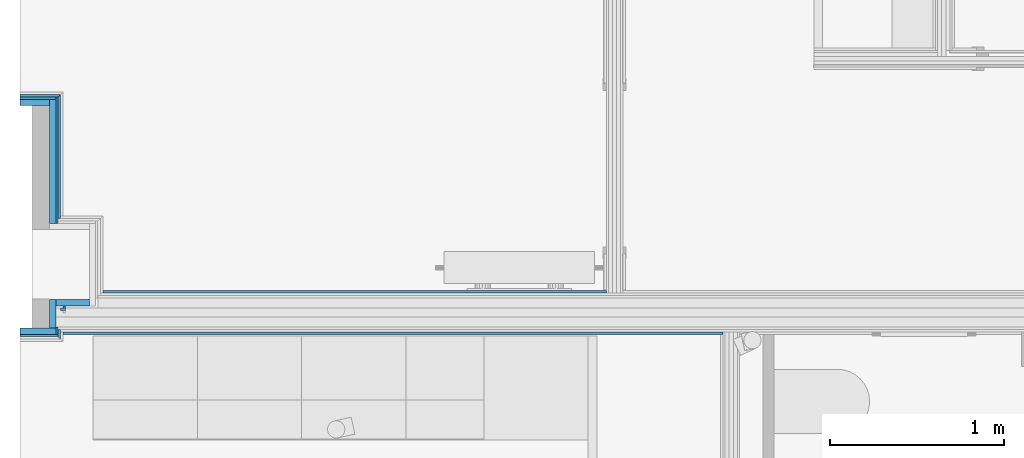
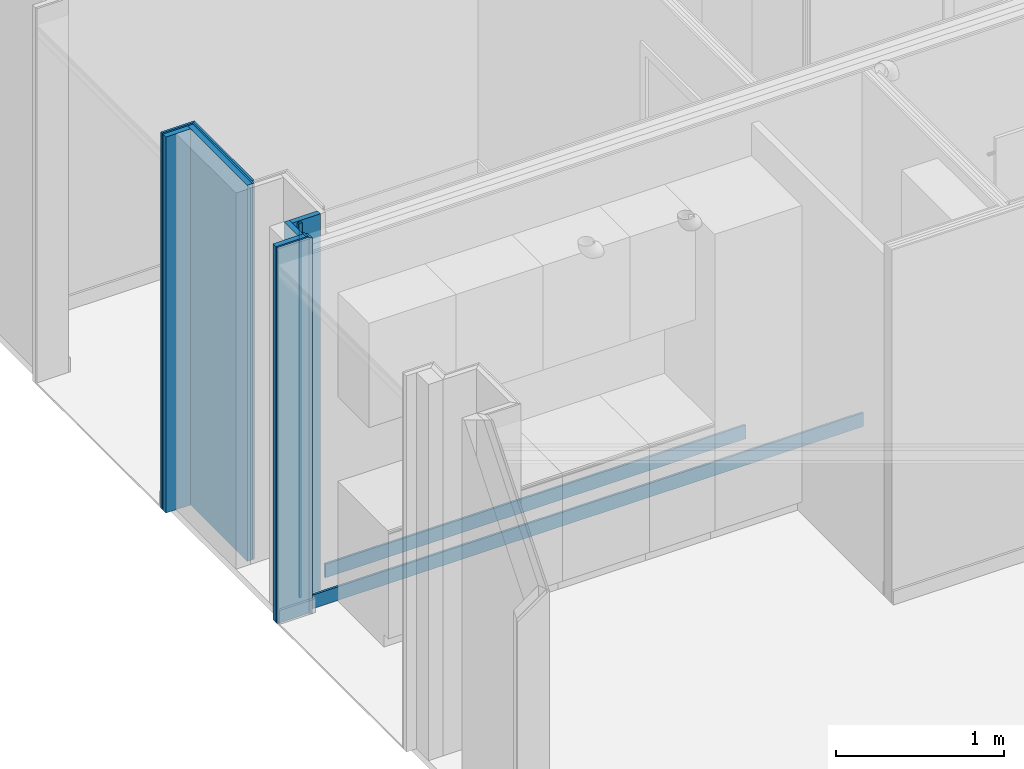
# One storey, part 12 of 85: 16 building element parts, 6 elements without a shape of their own.
"""IFC2X3 building model written with IfcOpenShell, lengths in metres."""

from ifc_helpers import new_model, entity, si_unit, converted_unit, derived_unit, money_unit, direction, frame, frame_2d, origin_with_axes, place, context, subcontext, project, spatial, polyline, rectangle, outline, extrude, material, type_object, element, aggregate, save


model = new_model("IFC2X3")

# Units and contexts
model_context = context("Model", 3, precision=1e-05, world=origin_with_axes(), true_north=direction((0.0, 1.0)))
body_context = subcontext(model_context, "Body", "Model", "MODEL_VIEW", scale=1.0)
ifc_project = project(units=[si_unit("LENGTHUNIT", "METRE"), si_unit("AREAUNIT", "SQUARE_METRE"), si_unit("VOLUMEUNIT", "CUBIC_METRE"), si_unit("ABSORBEDDOSEUNIT", "GRAY"), si_unit("AMOUNTOFSUBSTANCEUNIT", "MOLE"), si_unit("DOSEEQUIVALENTUNIT", "SIEVERT"), si_unit("ELECTRICCAPACITANCEUNIT", "FARAD"), si_unit("ELECTRICCHARGEUNIT", "COULOMB"), si_unit("ELECTRICCONDUCTANCEUNIT", "SIEMENS"), si_unit("ELECTRICCURRENTUNIT", "AMPERE"), si_unit("ELECTRICRESISTANCEUNIT", "OHM"), si_unit("ELECTRICVOLTAGEUNIT", "VOLT"), si_unit("ENERGYUNIT", "JOULE"), si_unit("FORCEUNIT", "NEWTON"), si_unit("FREQUENCYUNIT", "HERTZ"), si_unit("ILLUMINANCEUNIT", "LUX"), si_unit("INDUCTANCEUNIT", "HENRY"), si_unit("LUMINOUSFLUXUNIT", "LUMEN"), si_unit("LUMINOUSINTENSITYUNIT", "CANDELA"), si_unit("MAGNETICFLUXDENSITYUNIT", "TESLA"), si_unit("MAGNETICFLUXUNIT", "WEBER"), si_unit("MASSUNIT", "GRAM"), converted_unit("PLANEANGLEUNIT", "degree", entity("IfcReal", 0.0174532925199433), si_unit("PLANEANGLEUNIT", "RADIAN"), dimensions=[0, 0, 0, 0, 0, 0, 0]), si_unit("POWERUNIT", "WATT"), si_unit("PRESSUREUNIT", "PASCAL"), si_unit("RADIOACTIVITYUNIT", "BECQUEREL"), si_unit("SOLIDANGLEUNIT", "STERADIAN"), si_unit("THERMODYNAMICTEMPERATUREUNIT", "KELVIN"), si_unit("TIMEUNIT", "SECOND"), derived_unit("ACCELERATIONUNIT", [(si_unit("LENGTHUNIT", "METRE"), 1), (si_unit("TIMEUNIT", "SECOND"), -2)]), derived_unit("ANGULARVELOCITYUNIT", [(converted_unit("PLANEANGLEUNIT", "degree", entity("IfcReal", 0.0174532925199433), si_unit("PLANEANGLEUNIT", "RADIAN"), dimensions=[0, 0, 0, 0, 0, 0, 0]), 1), (si_unit("TIMEUNIT", "SECOND"), -1)]), derived_unit("CURVATUREUNIT", [(converted_unit("PLANEANGLEUNIT", "degree", entity("IfcReal", 0.0174532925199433), si_unit("PLANEANGLEUNIT", "RADIAN"), dimensions=[0, 0, 0, 0, 0, 0, 0]), 1), (si_unit("LENGTHUNIT", "METRE"), -1)]), derived_unit("DYNAMICVISCOSITYUNIT", [(si_unit("PRESSUREUNIT", "PASCAL"), 1), (si_unit("TIMEUNIT", "SECOND"), 1)]), derived_unit("HEATFLUXDENSITYUNIT", [(si_unit("POWERUNIT", "WATT"), 1), (si_unit("LENGTHUNIT", "METRE"), -2)]), derived_unit("HEATINGVALUEUNIT", [(si_unit("ENERGYUNIT", "JOULE"), 1), (si_unit("MASSUNIT", "GRAM"), -1)]), derived_unit("INTEGERCOUNTRATEUNIT", [(si_unit("TIMEUNIT", "SECOND"), -1)]), derived_unit("IONCONCENTRATIONUNIT", [(si_unit("MASSUNIT", "GRAM"), 1), (si_unit("VOLUMEUNIT", "CUBIC_METRE"), -1)]), derived_unit("ISOTHERMALMOISTURECAPACITYUNIT", [(si_unit("VOLUMEUNIT", "CUBIC_METRE"), 1), (si_unit("MASSUNIT", "GRAM"), -1)]), derived_unit("KINEMATICVISCOSITYUNIT", [(si_unit("AREAUNIT", "SQUARE_METRE"), 1), (si_unit("TIMEUNIT", "SECOND"), -1)]), derived_unit("LINEARFORCEUNIT", [(si_unit("FORCEUNIT", "NEWTON"), 1), (si_unit("LENGTHUNIT", "METRE"), -1)]), derived_unit("LINEARMOMENTUNIT", [(si_unit("FORCEUNIT", "NEWTON"), 1), (si_unit("LENGTHUNIT", "METRE"), -1)]), derived_unit("LINEARSTIFFNESSUNIT", [(si_unit("FORCEUNIT", "NEWTON"), 1), (si_unit("LENGTHUNIT", "METRE"), -1)]), derived_unit("LINEARVELOCITYUNIT", [(si_unit("LENGTHUNIT", "METRE"), 1), (si_unit("TIMEUNIT", "SECOND"), -1)]), derived_unit("LUMINOUSINTENSITYDISTRIBUTIONUNIT", [(si_unit("LUMINOUSINTENSITYUNIT", "CANDELA"), 1), (si_unit("LUMINOUSFLUXUNIT", "LUMEN"), -1)]), derived_unit("MASSDENSITYUNIT", [(si_unit("MASSUNIT", "GRAM"), 1), (si_unit("VOLUMEUNIT", "CUBIC_METRE"), -1)]), derived_unit("MASSFLOWRATEUNIT", [(si_unit("MASSUNIT", "GRAM"), 1), (si_unit("TIMEUNIT", "SECOND"), -1)]), derived_unit("MASSPERLENGTHUNIT", [(si_unit("MASSUNIT", "GRAM"), 1), (si_unit("LENGTHUNIT", "METRE"), -1)]), derived_unit("MODULUSOFELASTICITYUNIT", [(si_unit("FORCEUNIT", "NEWTON"), 1), (si_unit("AREAUNIT", "SQUARE_METRE"), -1)]), derived_unit("MODULUSOFLINEARSUBGRADEREACTIONUNIT", [(si_unit("FORCEUNIT", "NEWTON"), 1), (si_unit("LENGTHUNIT", "METRE"), -2)]), derived_unit("MODULUSOFROTATIONALSUBGRADEREACTIONUNIT", [(si_unit("FORCEUNIT", "NEWTON"), 1), (si_unit("LENGTHUNIT", "METRE"), 1)]), derived_unit("MODULUSOFSUBGRADEREACTIONUNIT", [(si_unit("FORCEUNIT", "NEWTON"), 1), (si_unit("VOLUMEUNIT", "CUBIC_METRE"), -1)]), derived_unit("MOISTUREDIFFUSIVITYUNIT", [(si_unit("VOLUMEUNIT", "CUBIC_METRE"), 1), (si_unit("TIMEUNIT", "SECOND"), -1)]), derived_unit("MOLECULARWEIGHTUNIT", [(si_unit("MASSUNIT", "GRAM"), 1), (si_unit("AMOUNTOFSUBSTANCEUNIT", "MOLE"), -1)]), derived_unit("PLANARFORCEUNIT", [(si_unit("FORCEUNIT", "NEWTON"), 1), (si_unit("LENGTHUNIT", "METRE"), -2)]), derived_unit("ROTATIONALFREQUENCYUNIT", [(si_unit("TIMEUNIT", "SECOND"), -1)]), derived_unit("ROTATIONALMASSUNIT", [(si_unit("MASSUNIT", "GRAM"), 1), (si_unit("LENGTHUNIT", "METRE"), 2)]), derived_unit("ROTATIONALSTIFFNESSUNIT", [(si_unit("FORCEUNIT", "NEWTON"), 1), (si_unit("LENGTHUNIT", "METRE"), 1), (converted_unit("PLANEANGLEUNIT", "degree", entity("IfcReal", 0.0174532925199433), si_unit("PLANEANGLEUNIT", "RADIAN"), dimensions=[0, 0, 0, 0, 0, 0, 0]), -1)]), derived_unit("SECTIONAREAINTEGRALUNIT", [(si_unit("LENGTHUNIT", "METRE"), 5)]), derived_unit("SECTIONMODULUSUNIT", [(si_unit("LENGTHUNIT", "METRE"), 3)]), derived_unit("SHEARMODULUSUNIT", [(si_unit("FORCEUNIT", "NEWTON"), 1), (si_unit("AREAUNIT", "SQUARE_METRE"), -1)]), derived_unit("SOUNDPOWERUNIT", [(si_unit("ENERGYUNIT", "JOULE"), 1), (si_unit("TIMEUNIT", "SECOND"), -1)]), derived_unit("SPECIFICHEATCAPACITYUNIT", [(si_unit("FORCEUNIT", "NEWTON"), 1), (si_unit("MASSUNIT", "GRAM"), -1), (si_unit("THERMODYNAMICTEMPERATUREUNIT", "KELVIN"), -1)]), derived_unit("TEMPERATUREGRADIENTUNIT", [(si_unit("THERMODYNAMICTEMPERATUREUNIT", "KELVIN"), 1), (si_unit("LENGTHUNIT", "METRE"), -1)]), derived_unit("THERMALADMITTANCEUNIT", [(si_unit("POWERUNIT", "WATT"), 1), (si_unit("AREAUNIT", "SQUARE_METRE"), -1), (si_unit("THERMODYNAMICTEMPERATUREUNIT", "KELVIN"), -1)]), derived_unit("THERMALCONDUCTANCEUNIT", [(si_unit("POWERUNIT", "WATT"), 1), (si_unit("LENGTHUNIT", "METRE"), -1), (si_unit("THERMODYNAMICTEMPERATUREUNIT", "KELVIN"), -1)]), derived_unit("THERMALEXPANSIONCOEFFICIENTUNIT", [(si_unit("THERMODYNAMICTEMPERATUREUNIT", "KELVIN"), -1)]), derived_unit("THERMALRESISTANCEUNIT", [(si_unit("AREAUNIT", "SQUARE_METRE"), 1), (si_unit("POWERUNIT", "WATT"), -1)]), derived_unit("THERMALTRANSMITTANCEUNIT", [(si_unit("POWERUNIT", "WATT"), 1), (si_unit("AREAUNIT", "SQUARE_METRE"), -1), (si_unit("THERMODYNAMICTEMPERATUREUNIT", "KELVIN"), -1)]), derived_unit("TORQUEUNIT", [(si_unit("FORCEUNIT", "NEWTON"), 1), (si_unit("LENGTHUNIT", "METRE"), 1)]), derived_unit("VAPORPERMEABILITYUNIT", [(si_unit("MASSUNIT", "GRAM"), 1), (si_unit("TIMEUNIT", "SECOND"), -1)]), derived_unit("VOLUMETRICFLOWRATEUNIT", [(si_unit("VOLUMEUNIT", "CUBIC_METRE"), 1), (si_unit("TIMEUNIT", "SECOND"), -1)]), derived_unit("WARPINGCONSTANTUNIT", [(si_unit("LENGTHUNIT", "METRE"), 6)]), derived_unit("WARPINGMOMENTUNIT", [(si_unit("FORCEUNIT", "NEWTON"), 1), (si_unit("LENGTHUNIT", "METRE"), 2)]), money_unit("GBP")], contexts=[model_context])

# Site, building, storey
site_placement = place(None, origin_with_axes())
site = spatial("IfcSite", under=ifc_project, at=site_placement, Name="Site", CompositionType="ELEMENT")
building_placement = place(site_placement, origin_with_axes())
building = spatial("IfcBuilding", under=site, at=building_placement, Name="Building01", CompositionType="ELEMENT")
storey_placement = place(building_placement, frame((0.0, 0.0, 12.13), z_axis=(0.0, 0.0, 1.0), x_axis=(1.0, 0.0, 0.0)))
storey = spatial("IfcBuildingStorey", under=building, at=storey_placement, Name="3F", CompositionType="ELEMENT", Elevation=12.13)

# Wall, building element parts
wall_type_1 = type_object("IfcWallType", Name="SHE_A-Walls_Type01c_Partywall_225mm_twin_tall", PredefinedType="NOTDEFINED")
wall_1_placement = place(storey_placement, frame((7.151669, 8.34767, 0.0), z_axis=(0.0, 0.0, 1.0), x_axis=(-1.0, 0.0, 0.0)))
wall_1 = element("IfcWall", 1, at=wall_1_placement, inside=storey, type_object=wall_type_1, Name="1C", ObjectType="SHE_A-Walls_Type01c_Partywall_225mm_twin_tall")
ifc_material_1 = material(Name="A_BSUK_Walls_Timber")
placement_1 = place(wall_1_placement, origin_with_axes())
building_element_part_1 = element("IfcBuildingElementPart", 2, at=placement_1, material=ifc_material_1, Name="2", context=body_context, shape_type="SweptSolid", body=[
    extrude(rectangle(XDim=0.015, YDim=2.897491, at=frame_2d((5.125745, -0.0955), x_axis=(0.0, -1.0))), frame((0.0, 0.0, 0.015), z_axis=(0.0, 0.0, 1.0), x_axis=(1.0, 0.0, 0.0)), (0.0, 0.0, 1.0), 0.1),
])
building_element_part_2 = element("IfcBuildingElementPart", 3, at=placement_1, material=ifc_material_1, Name="11", context=body_context, shape_type="SweptSolid", body=[
    extrude(rectangle(XDim=0.015, YDim=3.79773, at=frame_2d((4.904804, 0.1445), x_axis=(0.0, -1.0))), frame((0.0, 0.0, 0.015), z_axis=(0.0, 0.0, 1.0), x_axis=(1.0, 0.0, 0.0)), (0.0, 0.0, 1.0), 0.1),
])
aggregate(wall_1, [building_element_part_1, building_element_part_2])

wall_type_2 = type_object("IfcWallType", Name="SHE_A-Walls_Type06f_ExternalWallInsulation_48+15mm", PredefinedType="NOTDEFINED")
wall_2_placement = place(storey_placement, frame((0.306, 8.397548, 0.0), z_axis=(0.0, 0.0, 1.0), x_axis=(1.0, 0.0, 0.0)))
wall_2 = element("IfcWall", 4, at=wall_2_placement, inside=storey, type_object=wall_type_2, Name="6F", ObjectType="SHE_A-Walls_Type06f_ExternalWallInsulation_48+15mm")
ifc_material_2 = material(Name="A_BSUK_WallInternal_Finishes_Plasterboard")
placement_2 = place(wall_2_placement, origin_with_axes())
building_element_part_3 = element("IfcBuildingElementPart", 5, at=placement_2, material=ifc_material_2, Name="2", context=body_context, shape_type="SweptSolid", body=[
    extrude(rectangle(XDim=0.015, YDim=0.028562, at=frame_2d((0.041281, -0.0555), x_axis=(0.0, -1.0))), origin_with_axes(), (0.0, 0.0, 1.0), 2.74),
])
building_element_part_4 = element("IfcBuildingElementPart", 6, at=placement_2, material=ifc_material_2, Name="3", context=body_context, shape_type="SweptSolid", body=[
    extrude(rectangle(XDim=0.013562, YDim=0.012, at=frame_2d((0.048781, -0.042), x_axis=(1.0, 0.0))), origin_with_axes(), (0.0, 0.0, 1.0), 2.74),
])
ifc_material_3 = material(Name="A_BSUK_Insulation")
building_element_part_5 = element("IfcBuildingElementPart", 7, at=placement_2, material=ifc_material_3, Name="4", context=body_context, shape_type="SweptSolid", body=[
    extrude(rectangle(XDim=0.193178, YDim=0.036, at=frame_2d((0.096589, -0.018), x_axis=(-1.0, 0.0))), origin_with_axes(), (0.0, 0.0, 1.0), 2.74),
])
aggregate(wall_2, [building_element_part_3, building_element_part_4, building_element_part_5])

wall_3_placement = place(storey_placement, frame((0.1, 9.51418, 0.0), z_axis=(0.0, 0.0, 1.0), x_axis=(1.0, 0.0, 0.0)))
wall_3 = element("IfcWall", 8, at=wall_3_placement, inside=storey, type_object=wall_type_2, Name="6F", ObjectType="SHE_A-Walls_Type06f_ExternalWallInsulation_48+15mm")
placement_3 = place(wall_3_placement, origin_with_axes())
building_element_part_6 = element("IfcBuildingElementPart", 9, at=placement_3, material=ifc_material_3, Name="1", context=body_context, shape_type="SweptSolid", body=[
    extrude(rectangle(XDim=0.17, YDim=0.036, at=frame_2d((0.085, 0.018), x_axis=(-1.0, 0.0))), origin_with_axes(), (0.0, 0.0, 1.0), 2.74),
])
building_element_part_7 = element("IfcBuildingElementPart", 10, at=placement_3, material=ifc_material_2, Name="2", context=body_context, shape_type="SweptSolid", body=[
    extrude(rectangle(XDim=0.206, YDim=0.012, at=frame_2d((0.103, 0.042), x_axis=(-1.0, 0.0))), origin_with_axes(), (0.0, 0.0, 1.0), 2.74),
])
building_element_part_8 = element("IfcBuildingElementPart", 11, at=placement_3, material=ifc_material_2, Name="3", context=body_context, shape_type="SweptSolid", body=[
    extrude(outline(polyline([(0.233, 0.063), (0.0, 0.063), (0.0, 0.048), (0.218, 0.048), (0.233, 0.063)])), origin_with_axes(), (0.0, 0.0, 1.0), 2.74),
])
aggregate(wall_3, [building_element_part_6, building_element_part_7, building_element_part_8])

wall_4_placement = place(storey_placement, frame((0.1, 8.233, 0.0), z_axis=(0.0, 0.0, 1.0), x_axis=(1.0, 0.0, 0.0)))
wall_4 = element("IfcWall", 12, at=wall_4_placement, inside=storey, type_object=wall_type_2, Name="6F", ObjectType="SHE_A-Walls_Type06f_ExternalWallInsulation_48+15mm")
placement_4 = place(wall_4_placement, origin_with_axes())
building_element_part_9 = element("IfcBuildingElementPart", 13, at=placement_4, material=ifc_material_2, Name="3", context=body_context, shape_type="SweptSolid", body=[
    extrude(rectangle(XDim=0.218, YDim=0.012, at=frame_2d((0.109, -0.042), x_axis=(-1.0, 0.0))), origin_with_axes(), (0.0, 0.0, 1.0), 2.74),
])
building_element_part_10 = element("IfcBuildingElementPart", 14, at=placement_4, material=ifc_material_3, Name="4", context=body_context, shape_type="SweptSolid", body=[
    extrude(rectangle(XDim=0.206, YDim=0.036, at=frame_2d((0.103, -0.018), x_axis=(-1.0, 0.0))), origin_with_axes(), (0.0, 0.0, 1.0), 2.74),
])
aggregate(wall_4, [building_element_part_9, building_element_part_10])

wall_5_placement = place(storey_placement, frame((0.27, 8.836, 0.0), z_axis=(0.0, 0.0, 1.0), x_axis=(0.0, 1.0, 0.0)))
wall_5 = element("IfcWall", 15, at=wall_5_placement, inside=storey, type_object=wall_type_2, Name="6F", ObjectType="SHE_A-Walls_Type06f_ExternalWallInsulation_48+15mm")
placement_5 = place(wall_5_placement, origin_with_axes())
building_element_part_11 = element("IfcBuildingElementPart", 16, at=placement_5, material=ifc_material_2, Name="2", context=body_context, shape_type="SweptSolid", body=[
    extrude(outline(polyline([(0.72618, -0.048), (0.027, -0.048), (0.027, -0.063), (0.74118, -0.063), (0.72618, -0.048)])), origin_with_axes(), (0.0, 0.0, 1.0), 2.74),
])
building_element_part_12 = element("IfcBuildingElementPart", 17, at=placement_5, material=ifc_material_2, Name="3", context=body_context, shape_type="SweptSolid", body=[
    extrude(rectangle(XDim=0.72618, YDim=0.012, at=frame_2d((0.36309, -0.042), x_axis=(-1.0, 0.0))), origin_with_axes(), (0.0, 0.0, 1.0), 2.74),
])
building_element_part_13 = element("IfcBuildingElementPart", 18, at=placement_5, material=ifc_material_3, Name="4", context=body_context, shape_type="SweptSolid", body=[
    extrude(rectangle(XDim=0.71418, YDim=0.036, at=frame_2d((0.35709, -0.018), x_axis=(-1.0, 0.0))), origin_with_axes(), (0.0, 0.0, 1.0), 2.74),
])
aggregate(wall_5, [building_element_part_11, building_element_part_12, building_element_part_13])

wall_6_placement = place(storey_placement, frame((0.27, 8.233, 0.0), z_axis=(0.0, 0.0, 1.0), x_axis=(0.0, 1.0, 0.0)))
wall_6 = element("IfcWall", 19, at=wall_6_placement, inside=storey, type_object=wall_type_2, Name="6F", ObjectType="SHE_A-Walls_Type06f_ExternalWallInsulation_48+15mm")
placement_6 = place(wall_6_placement, origin_with_axes())
building_element_part_14 = element("IfcBuildingElementPart", 20, at=placement_6, material=ifc_material_2, Name="2", context=body_context, shape_type="SweptSolid", body=[
    extrude(outline(polyline([(-0.048, -0.048), (-0.063, -0.063), (-0.007733, -0.063), (-0.007733, -0.048), (-0.048, -0.048)])), origin_with_axes(), (0.0, 0.0, 1.0), 2.74),
])
building_element_part_15 = element("IfcBuildingElementPart", 21, at=placement_6, material=ifc_material_2, Name="3", context=body_context, shape_type="SweptSolid", body=[
    extrude(rectangle(XDim=0.012, YDim=0.04367, at=frame_2d((-0.014165, -0.042), x_axis=(0.0, -1.0))), origin_with_axes(), (0.0, 0.0, 1.0), 2.74),
])
building_element_part_16 = element("IfcBuildingElementPart", 22, at=placement_6, material=ifc_material_3, Name="4", context=body_context, shape_type="SweptSolid", body=[
    extrude(rectangle(XDim=0.164548, YDim=0.036, at=frame_2d((0.082274, -0.018), x_axis=(-1.0, 0.0))), origin_with_axes(), (0.0, 0.0, 1.0), 2.74),
])
aggregate(wall_6, [building_element_part_14, building_element_part_15, building_element_part_16])

save(model, "model.ifc")
